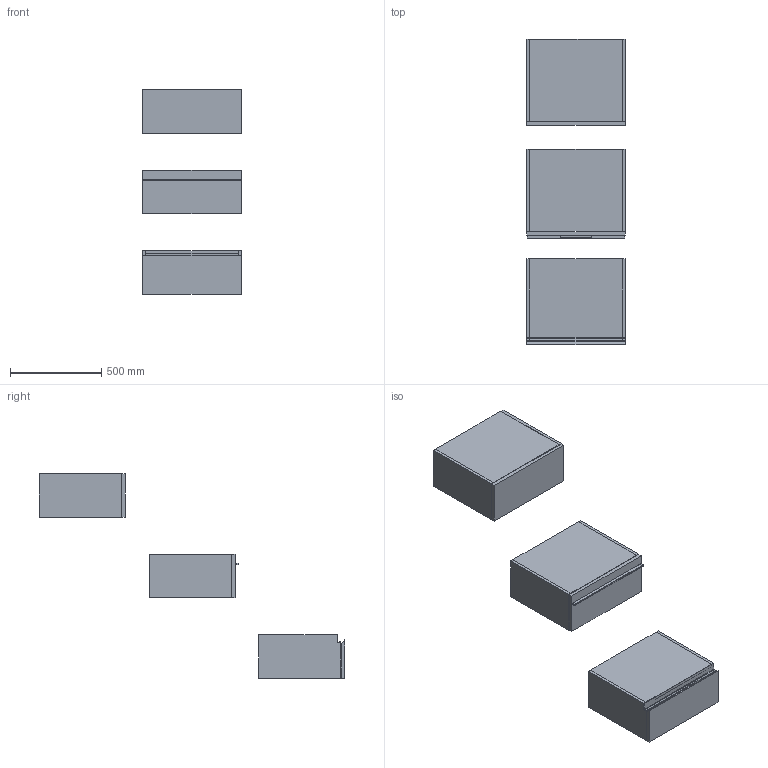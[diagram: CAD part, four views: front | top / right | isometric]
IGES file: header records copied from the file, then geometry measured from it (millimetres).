
Start section: Data from Parasolid IGES Translator 19.0.9, Copyright(c) 2006 Siemens PL M Software. All Rights Reserved.
Global section: file name: noorth-SI-H 24 D 47 W 54_8291.igs; native system: By Siemens PLM Incorporated; preprocessor: XPlus GENERIC/IGES 19.0.9; author: Noname; organization: Noname; date: 20200530.113647; units: metre
Bounding box: 540.01 x 1669.1 x 1120 mm (x, y, z)
Volume: 40012797 mm3; surface area: 5882644.5 mm2
Topology: 20 solids, 20 shells, 178 faces, 382 edges, 234 vertices
Faces by surface type: plane 134, extrusion 16, bspline 16, cylinder 12
